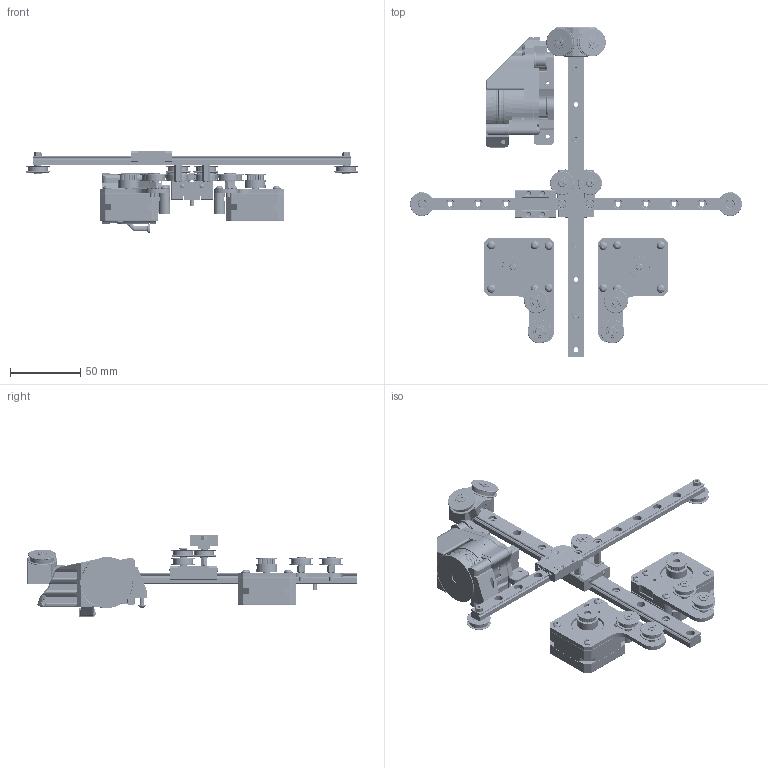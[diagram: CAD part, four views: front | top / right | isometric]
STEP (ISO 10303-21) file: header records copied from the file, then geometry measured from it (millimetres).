
FILE_DESCRIPTION(/* description */ (''),/* implementation_level */ '2;1');
FILE_NAME(/* name */ 'Motion Assembly.step',/* time_stamp */ '2026-01-26T17:51:30-05:00',/* author */ (''),/* organization */ (''),/* preprocessor_version */ 'ST-DEVELOPER v20.1',/* originating_system */ 'Autodesk Translation Framework v14.21.0.0',/* authorisation */ '');
FILE_SCHEMA (('AUTOMOTIVE_DESIGN { 1 0 10303 214 3 1 1 }'));
Products named in the file (157): Motion Assembly; B Drive Assembly (Bµç»ú×°Å
äÌå) v24.step; LDO-42STH20-1004ASH v1.step; Stator.step; Shaft.step; AB Motor Plate [CNC] v6.step; Pulley 2GT 20T 5x3mm v3.step; M3x6 BHCS v1.step; M3x6 BHCS v1 (1).step; M3x6 BHCS v1 (2).step; M3x6 BHCS v1 (3).step; M3x8 BHCS v1.step; M3x8 BHCS v1 (1).step; Small Idler Assembly (Ð¡¶èÂÖ×°Åä
Ìå) v5 (2).step; Idler ¦Õ9*17*5mm [CNC] v3 (8).step; 603-ZZ£¨3*9*5£© v1 (10).step; Washer 5*3*0.5 v1.step; M3x8 Wafer Head v1 (2).step; Standoff H4.75*M3*5+6 v3 (1).step; Small Idler Assembly (Ð¡¶èÂÖ×°Åä
Ìå) v5 (3).step; Idler ¦Õ9*17*5mm [CNC] v3 (9).step; 603-ZZ£¨3*9*5£© v1 (11).step; Washer 5*3*0.5 v1 (2).step; M3x8 Wafer Head v1 (3).step; Standoff H4.75*M3*5+6 v3.step; Motor Drive Standoff  [CNC] v14 (1).step; A Drive Assembly (Aµç»ú×°Å
äÌå) v25.step; LDO-42STH20-1004ASH v1 (1).step; Stator (1).step; Shaft (1).step; AB Motor Plate [CNC] v6 (1).step; Pulley 2GT 20T 5x3mm v3 (1).step; M3x6 BHCS v1 (4).step; M3x6 BHCS v1 (5).step; M3x6 BHCS v1 (6).step; M3x6 BHCS v1 (7).step; M3x8 BHCS v1 (2).step; M3x8 BHCS v1 (3).step; Small Idler Assembly (Ð¡¶èÂÖ×°Åä
Ìå) v5 (1).step; Idler ¦Õ9*17*5mm [CNC] v3 (7).step ...
Assembly tree (185 placements, depth 6):
  Motion Assembly
    B Drive Assembly (Bµç»ú×°Å
äÌå) v24.step
      LDO-42STH20-1004ASH v1.step
        Stator.step
        Shaft.step
      AB Motor Plate [CNC] v6.step
      Pulley 2GT 20T 5x3mm v3.step
      M3x6 BHCS v1.step
      M3x6 BHCS v1 (1).step
      M3x6 BHCS v1 (2).step
      M3x6 BHCS v1 (3).step
      M3x8 BHCS v1.step
      M3x8 BHCS v1 (1).step
      Small Idler Assembly (Ð¡¶èÂÖ×°Åä
Ìå) v5 (2).step
        Idler ¦Õ9*17*5mm [CNC] v3 (8).step
        603-ZZ£¨3*9*5£© v1 (10).step
        Washer 5*3*0.5 v1.step
        M3x8 Wafer Head v1 (2).step
        Standoff H4.75*M3*5+6 v3 (1).step
      Small Idler Assembly (Ð¡¶èÂÖ×°Åä
Ìå) v5 (3).step
        Idler ¦Õ9*17*5mm [CNC] v3 (9).step
        603-ZZ£¨3*9*5£© v1 (11).step
        Washer 5*3*0.5 v1 (2).step
        M3x8 Wafer Head v1 (3).step
        Standoff H4.75*M3*5+6 v3.step
      Motor Drive Standoff  [CNC] v14 (1).step
    A Drive Assembly (Aµç»ú×°Å
äÌå) v25.step
      LDO-42STH20-1004ASH v1 (1).step
        Stator (1).step
        Shaft (1).step
      AB Motor Plate [CNC] v6 (1).step
      Pulley 2GT 20T 5x3mm v3 (1).step
      M3x6 BHCS v1 (4).step
      M3x6 BHCS v1 (5).step
      M3x6 BHCS v1 (6).step
      M3x6 BHCS v1 (7).step
      M3x8 BHCS v1 (2).step
      M3x8 BHCS v1 (3).step
      Small Idler Assembly (Ð¡¶èÂÖ×°Åä
Ìå) v5 (1).step
        Idler ¦Õ9*17*5mm [CNC] v3 (7).step
        603-ZZ£¨3*9*5£© v1 (9).step
        Washer 5*3*0.5 v1 (1).step
        M3x8 Wafer Head v1.step
        Standoff H4.75*M3*5+6 v3 (2).step
      Small Idler Assembly (Ð¡¶èÂÖ×°Åä
Ìå) v5.step
        Idler ¦Õ9*17*5mm [CNC] v3 (6).step
        603-ZZ£¨3*9*5£© v1 (8).step
        Washer 5*3*0.5 v1 (3).step
        M3x8 Wafer Head v1 (1).step
        Standoff H4.75*M3*5+6 v3 (3).step
      Motor Drive Standoff  [CNC] v14.step
    Z Drive Assembly (ZÇý¶¯×°Å
äÌå) v93.step
      MF148ZZ Bearing.step
        _MR148ZZ Outer Ring (1)_1.step
        _MR148ZZ Inner Ring (1)_1.step
        _MR148ZZ Shield1 (1)_1.step
        _MR148ZZ Ball (1)_1.step  x14
        _MR148ZZ Shield2 (1)_1.step
      LDO-36STH17-1004AHG.step
        LDO Stepper (1).step
Bounding box: 237 x 235 x 58.77 mm (x, y, z)
Volume: 220133.3 mm3; surface area: 163084.8 mm2
Topology: 167 solids, 167 shells, 7687 faces, 20973 edges, 13885 vertices
Faces by surface type: cylinder 2752, bspline 2589, plane 1814, torus 332, cone 174, sphere 26
Full cylindrical faces by diameter (mm): 1.2 x4, 1.288 x5, 2 x4, 2.075 x29, 2.459 x8, 2.5 x3, 2.529 x98, 2.58 x30, 2.603 x4, 2.9 x1, 2.927 x37, 2.938 x2, 3 x32, 3.086 x75, 3.2 x9, 3.4 x3, 3.5 x36, 3.8 x1, 4 x4, 4.1 x2, 4.4 x28, 4.429 x10, 4.5 x2, 4.8 x6, 5 x31, 5.5 x6, 5.6 x4, 5.7 x8, 5.75 x8, 5.8 x20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
Entity records: 290237 total; most frequent: CARTESIAN_POINT 155327, ORIENTED_EDGE 28948, DIRECTION 25360, EDGE_CURVE 14474, AXIS2_PLACEMENT_3D 10154, VERTEX_POINT 9506, EDGE_LOOP 6090, FACE_OUTER_BOUND 5510
